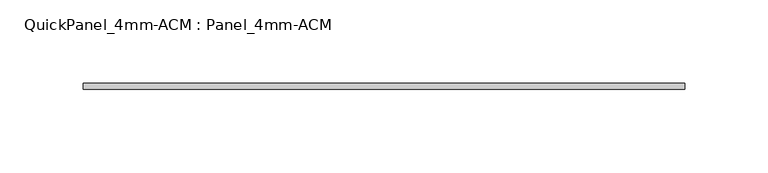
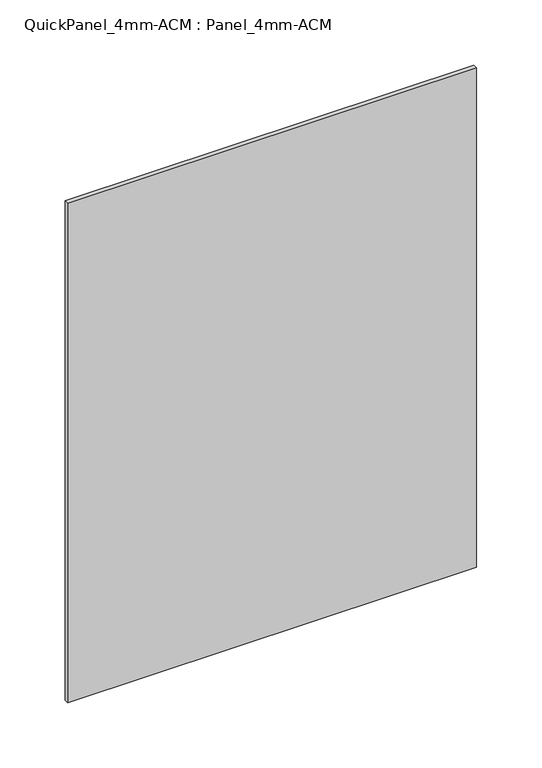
"""IFC4 building model written with IfcOpenShell, lengths in millimetres: plate geometry, QuickPanel_4mm-ACM : Panel_4mm-ACM."""

from ifc_helpers import new_model, si_unit, origin, origin_with_axes, place, context, project, spatial, polyline, outline, extrude, source, transform, mapped, element, save


def quickpanel_4mm_acm_panel_4mm_acm_ec2d5cac(model_context):
    return source(origin(), model_context, "Body", "SweptSolid", [
        extrude(outline(polyline([(-181.0107026, -6.096), (181.0107026, -6.096), (181.0107026, -9.906), (-181.0107026, -9.906), (-181.0107026, -6.096)])), origin_with_axes(), (0.0, 0.0, 1.0), 467.4229776),
    ])


if __name__ == "__main__":
    model = new_model("IFC4")
    model_context = context("Model", 3, world=origin())
    ifc_project = project(units=[si_unit("LENGTHUNIT", "METRE", prefix="MILLI")], contexts=[model_context])
    site = spatial("IfcSite", under=ifc_project)
    building = spatial("IfcBuilding", under=site)
    placement = place(None, origin())
    quickpanel_4mm_acm_panel_4mm_acm_shape = quickpanel_4mm_acm_panel_4mm_acm_ec2d5cac(model_context)
    element("IfcPlate", 1, ObjectType="QuickPanel_4mm-ACM : Panel_4mm-ACM", at=placement, inside=building, context=model_context, shape_type="MappedRepresentation", body=[
        mapped(quickpanel_4mm_acm_panel_4mm_acm_shape, transform((0.0, 0.0, 0.0), x_axis=(1.0, 0.0, 0.0), y_axis=(0.0, 1.0, 0.0), z_axis=(0.0, 0.0, 1.0))),
    ])
    save(model, "model.ifc")
